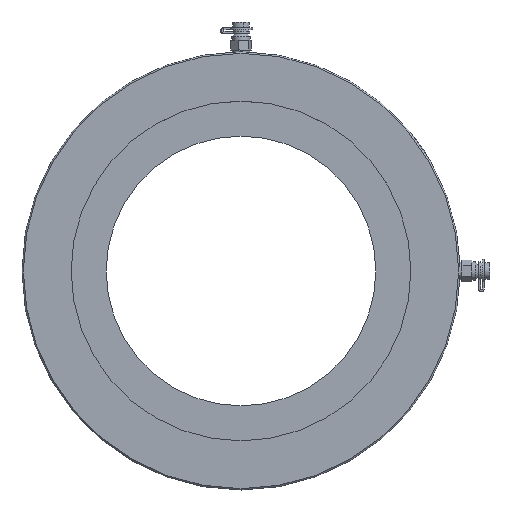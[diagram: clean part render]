
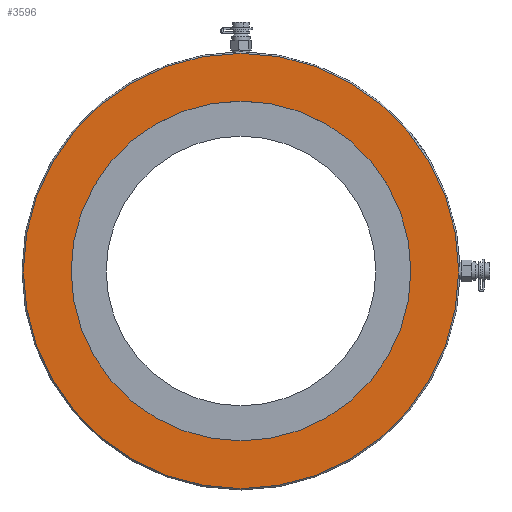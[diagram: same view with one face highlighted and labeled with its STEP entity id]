
A CAD part, top view. The second image highlights one B-rep face of the part: STEP entity #3596.
In plain terms, the highlighted planar face has unit normal (0, 0, 1).
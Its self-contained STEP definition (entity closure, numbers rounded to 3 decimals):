
#3562=CARTESIAN_POINT('',(164.0,0.,10.0));
#3563=VERTEX_POINT('',#3562);
#3564=CARTESIAN_POINT('',(0.0,0.0,10.0));
#3565=DIRECTION('',(0.0,0.0,-1.0));
#3566=DIRECTION('',(-1.0,0.0,0.0));
#3567=AXIS2_PLACEMENT_3D('',#3564,#3565,#3566);
#3568=CIRCLE('',#3567,164.0);
#3569=EDGE_CURVE('',#3563,#3563,#3568,.T.);
#3577=CARTESIAN_POINT('',(0.0,0.0,10.0));
#3578=DIRECTION('',(0.0,0.0,-1.0));
#3579=DIRECTION('',(-1.0,0.0,0.0));
#3580=AXIS2_PLACEMENT_3D('',#3577,#3578,#3579);
#3581=PLANE('',#3580);
#3582=ORIENTED_EDGE('',*,*,#3569,.F.);
#3583=EDGE_LOOP('',(#3582));
#3584=FACE_OUTER_BOUND('',#3583,.T.);
#3585=CARTESIAN_POINT('',(128.0,0.,10.0));
#3586=VERTEX_POINT('',#3585);
#3587=CARTESIAN_POINT('',(0.0,0.0,10.0));
#3588=DIRECTION('',(0.0,0.0,-1.0));
#3589=DIRECTION('',(-1.0,0.0,0.0));
#3590=AXIS2_PLACEMENT_3D('',#3587,#3588,#3589);
#3591=CIRCLE('',#3590,128.0);
#3592=EDGE_CURVE('',#3586,#3586,#3591,.T.);
#3593=ORIENTED_EDGE('',*,*,#3592,.T.);
#3594=EDGE_LOOP('',(#3593));
#3595=FACE_BOUND('',#3594,.T.);
#3596=ADVANCED_FACE('',(#3584,#3595),#3581,.F.);
